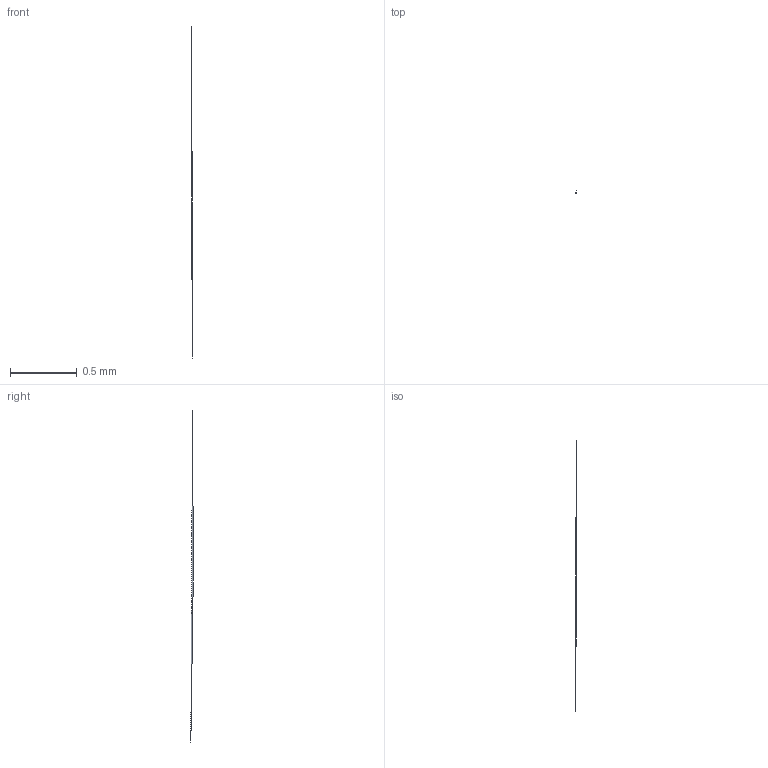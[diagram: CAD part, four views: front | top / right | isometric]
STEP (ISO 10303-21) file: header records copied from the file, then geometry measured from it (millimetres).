
FILE_DESCRIPTION(/* description */ ('STEP AP242 Edition 2','CAx-IF Rec.Pracs.---Representation and Presentation of Product Manufacturing Information (PMI)---4.0---2014-10-13','CAx-IF Rec.Pracs.---3D Tessellated Geometry---0.4---2014-09-14','2;1','CAx-IF Rec.Pracs.---User Defined Attributes---1.5---2016-08-15'),/* implementation_level */ '2;1');
FILE_NAME(/* name */ 'Assembly 1 - Part 69',/* time_stamp */ '2026-03-29T21:14:58Z',/* author */ (''),/* organization */ (''),/* preprocessor_version */ 'ST-DEVELOPER v20',/* originating_system */ 'ONSHAPE BY PTC INC, 1.212',/* authorisation */ ' ');
FILE_SCHEMA (('AP242_MANAGED_MODEL_BASED_3D_ENGINEERING_MIM_LF { 1 0 10303 442 3 1 4 }'));
Length unit declared in the file: metre
Products named in the file (1): Part 69
Bounding box: 0 x 0.02 x 2.49 mm (x, y, z)
Surface area: 0 mm2 (no closed solid volume)
Topology: 0 solids, 1 shells, 1 faces, 0 edges, 0 vertices
Faces by surface type: other 1
Entity records: 31 total; most frequent: DIRECTION 2, SHAPE_REPRESENTATION_RELATIONSHIP 1, TESSELLATED_SHAPE_REPRESENTATION 1, STYLED_ITEM 1, PRESENTATION_STYLE_ASSIGNMENT 1, SURFACE_STYLE_USAGE 1, SURFACE_SIDE_STYLE 1, SURFACE_STYLE_FILL_AREA 1
